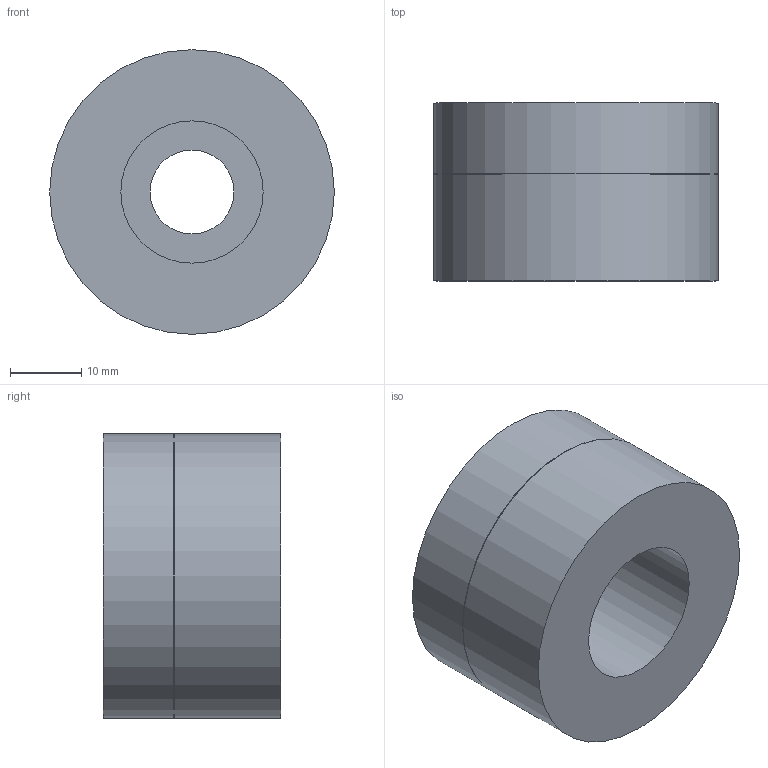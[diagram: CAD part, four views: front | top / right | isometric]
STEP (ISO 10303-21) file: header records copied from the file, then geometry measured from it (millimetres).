
FILE_DESCRIPTION (( 'STEP AP214' ), '1' );
FILE_NAME ('10FF.040.003.15N.STEP', '2026-03-25T18:24:07', ( '' ), ( '' ), 'SwSTEP 2.0', 'SolidWorks 2025', '' );
FILE_SCHEMA (( 'AUTOMOTIVE_DESIGN' ));
Length unit declared in the file: millimetre
Products named in the file (1): 10FF.040.003.15N
Bounding box: 40 x 25 x 40 mm (x, y, z)
Volume: 25604.8 mm3; surface area: 6761.6 mm2
Topology: 1 solids, 1 shells, 11 faces, 18 edges, 12 vertices
Faces by surface type: cylinder 5, plane 5, cone 1
Full cylindrical faces by diameter (mm): 11.8 x1, 20 x1, 39.818 x1, 40 x2
Entity records: 251 total; most frequent: DIRECTION 46, CARTESIAN_POINT 34, AXIS2_PLACEMENT_3D 23, EDGE_LOOP 22, ORIENTED_EDGE 22, FACE_OUTER_BOUND 16, EDGE_CURVE 11, VERTEX_POINT 11
